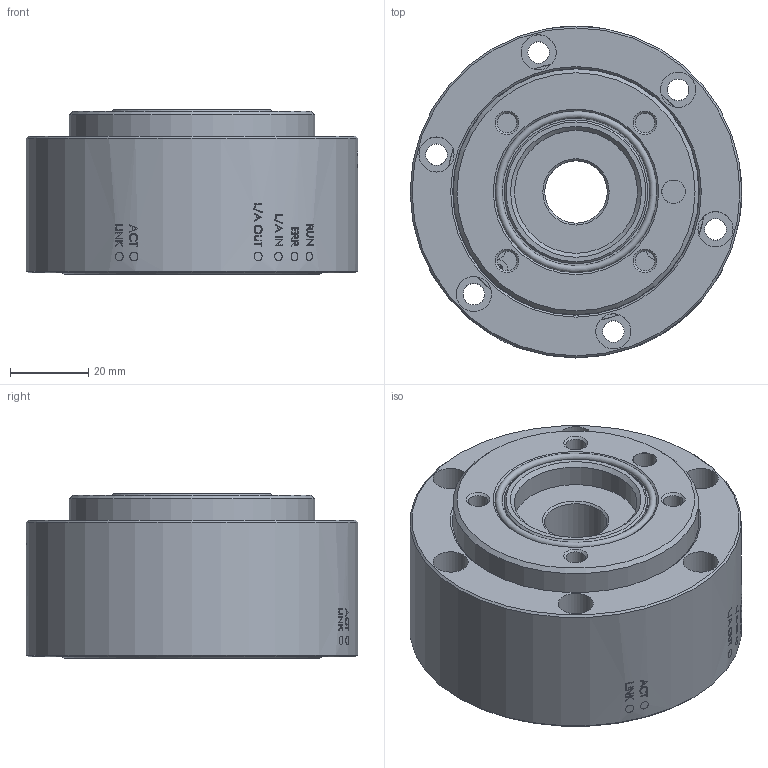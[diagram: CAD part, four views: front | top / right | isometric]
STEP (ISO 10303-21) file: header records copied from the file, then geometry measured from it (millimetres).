
FILE_DESCRIPTION (( 'STEP AP214' ), '1' );
FILE_NAME ('PixONE T60 3D File.STEP', '2025-08-08T12:15:14', ( '' ), ( '' ), 'SwSTEP 2.0', 'SolidWorks 2022', '' );
FILE_SCHEMA (( 'AUTOMOTIVE_DESIGN' ));
Length unit declared in the file: millimetre
Products named in the file (1): PixONE T60 3D File
Bounding box: 85 x 85 x 42.22 mm (x, y, z)
Surface area: 44142.5 mm2 (no closed solid volume)
Topology: 0 solids, 429 shells, 1467 faces, 7479 edges, 6245 vertices
Faces by surface type: plane 956, cylinder 224, bspline 211, sphere 49, cone 20, torus 7
Full cylindrical faces by diameter (mm): 0.338 x1, 0.625 x1, 2 x20, 2.2 x4, 3 x2, 3.2 x3, 5 x4, 5.5 x6, 6 x1, 9 x6, 16 x2, 17.83 x1, 24 x1, 25 x1, 31.5 x1, 36.8 x1, 61.6 x1, 62.35 x1, 63 x1, 63.2 x1, 66.78 x1, 85 x1
Entity records: 98056 total; most frequent: CARTESIAN_POINT 28616, DIRECTION 9414, ORIENTED_EDGE 9213, EDGE_CURVE 7338, VERTEX_POINT 6219, LINE 5180, VECTOR 5180, AXIS2_PLACEMENT_3D 2117
